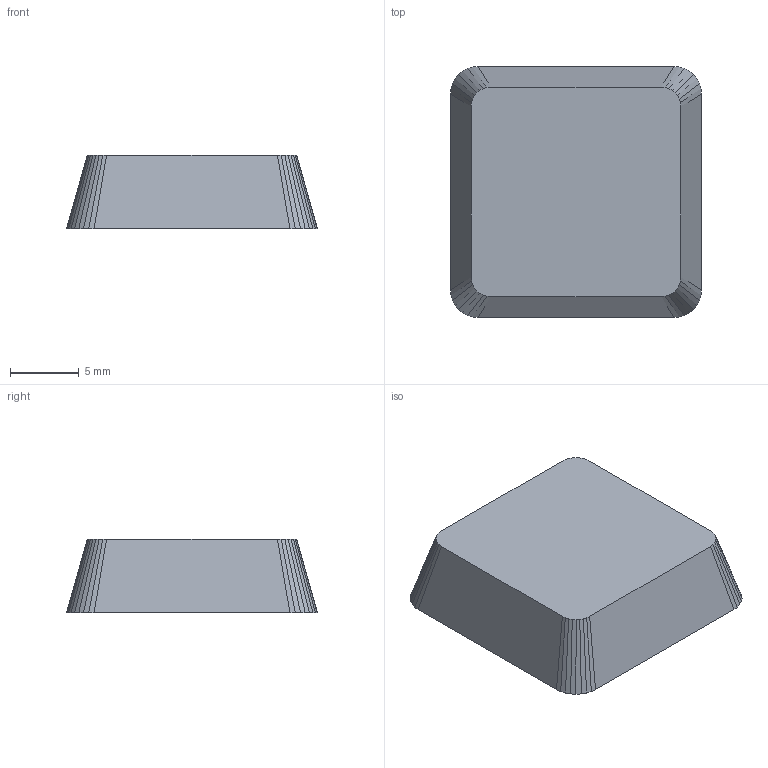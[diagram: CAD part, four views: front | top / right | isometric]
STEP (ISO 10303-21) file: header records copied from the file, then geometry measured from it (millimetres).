
FILE_DESCRIPTION(('Open CASCADE Model'),'2;1');
FILE_NAME('Open CASCADE Shape Model','2026-10-06T20:45:12',('Author'),( 'Open CASCADE'),'Open CASCADE STEP processor 7.9','Open CASCADE 7.9' ,'Unknown');
FILE_SCHEMA(('AUTOMOTIVE_DESIGN { 1 0 10303 214 1 1 1 1 }'));
Length unit declared in the file: millimetre
Products named in the file (1): Open CASCADE STEP translator 7.9 3
Bounding box: 18.2 x 18.2 x 5.3 mm (x, y, z)
Volume: 574.1 mm3; surface area: 1220.7 mm2
Topology: 1 solids, 1 shells, 90 faces, 255 edges, 170 vertices
Faces by surface type: bspline 72, plane 17, cylinder 1
Full cylindrical faces by diameter (mm): 5.3 x1
Entity records: 5905 total; most frequent: CARTESIAN_POINT 1532, DIRECTION 520, ORIENTED_EDGE 510, PCURVE 510, DEFINITIONAL_REPRESENTATION 510, LINE 477, VECTOR 477, B_SPLINE_CURVE_WITH_KNOTS 284
